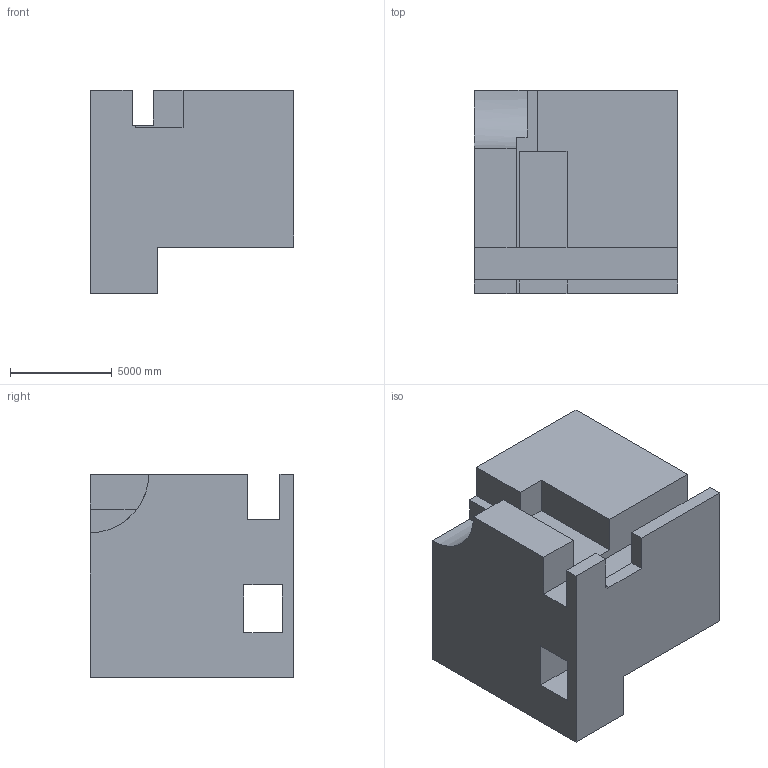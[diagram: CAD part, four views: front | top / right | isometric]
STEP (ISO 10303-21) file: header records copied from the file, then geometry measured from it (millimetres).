
FILE_DESCRIPTION (( 'STEP AP203' ), '1' );
FILE_NAME ('1524.STEP', '2022-08-18T15:02:31', ( 'user' ), ( '' ), 'SwSTEP 2.0', 'SolidWorks 2021', '' );
FILE_SCHEMA (( 'CONFIG_CONTROL_DESIGN' ));
Length unit declared in the file: centimetre
Products named in the file (1): 1524
Bounding box: 10000 x 10000 x 10000 mm (x, y, z)
Volume: 702028010092.8 mm3; surface area: 659190110.7 mm2
Topology: 1 solids, 1 shells, 34 faces, 99 edges, 66 vertices
Faces by surface type: plane 33, cylinder 1
Entity records: 1187 total; most frequent: CARTESIAN_POINT 200, ORIENTED_EDGE 198, DIRECTION 172, EDGE_CURVE 99, VECTOR 96, LINE 96, VERTEX_POINT 66, AXIS2_PLACEMENT_3D 38
